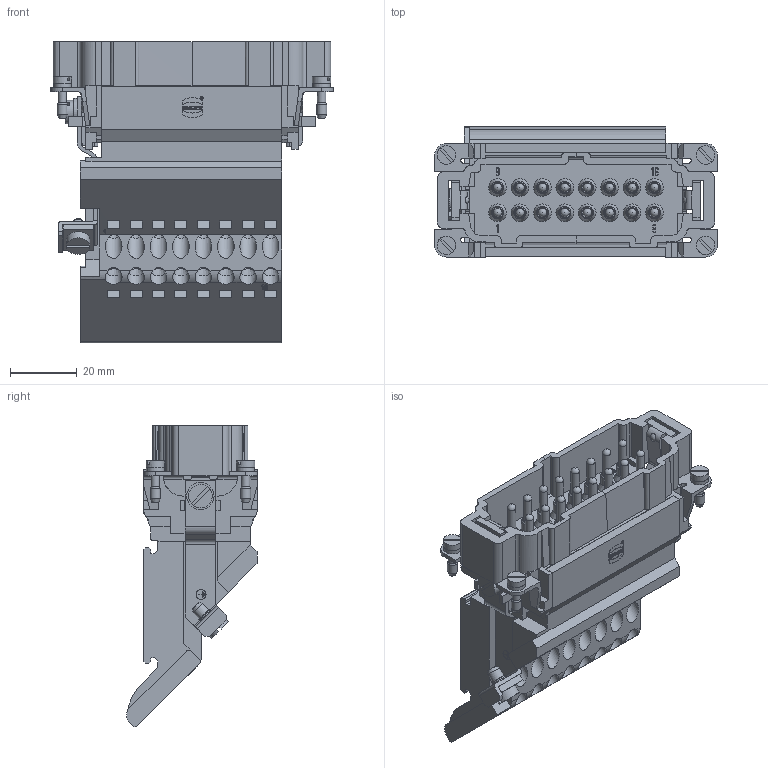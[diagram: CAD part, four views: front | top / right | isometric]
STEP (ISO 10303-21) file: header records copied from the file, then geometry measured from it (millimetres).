
FILE_DESCRIPTION(/* description */ (''),/* implementation_level */ '2;1');
FILE_NAME(/* name */ '100662505ugm000_b.stp',/* time_stamp */ '2022-03-12T00:23:09+01:00',/* author */ (''),/* organization */ (''),/* preprocessor_version */ 'ST-DEVELOPER v16.7',/* originating_system */ 'SIEMENS PLM Software NX 1911',/* authorisation */ '');
FILE_SCHEMA (('AUTOMOTIVE_DESIGN { 1 0 10303 214 3 1 1 1 }'));
Length unit declared in the file: millimetre
Products named in the file (1): 100662505ugm000_b
Bounding box: 84.5 x 39.04 x 90.1 mm (x, y, z)
Volume: 109123.1 mm3; surface area: 32525.6 mm2
Topology: 1 solids, 1 shells, 1213 faces, 3445 edges, 2451 vertices
Faces by surface type: plane 815, cylinder 283, cone 57, extrusion 37, sphere 20, bspline 1
Full cylindrical faces by diameter (mm): 0.683 x1, 0.807 x1, 2.3 x2, 2.45 x2, 2.5 x20, 2.925 x1, 3 x5, 3.242 x1, 3.7 x16, 4 x1, 4.35 x1, 5 x16, 5.3 x4, 5.5 x4, 7 x2, 8.17 x1
Entity records: 47263 total; most frequent: CARTESIAN_POINT 8142, ORIENTED_EDGE 6176, DIRECTION 5899, EDGE_CURVE 3088, VECTOR 2347, LINE 2310, VERTEX_POINT 2134, AXIS2_PLACEMENT_3D 1776
